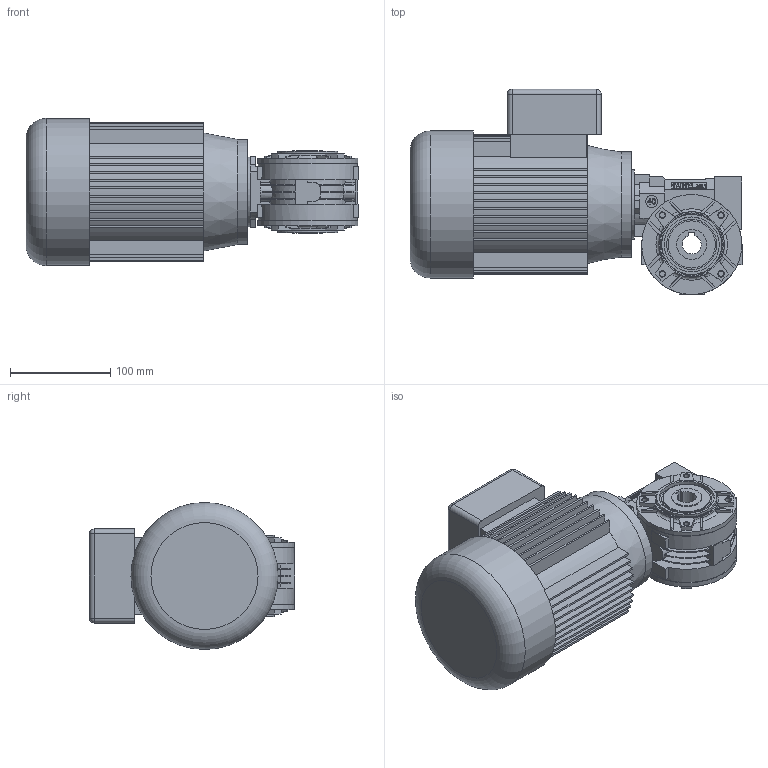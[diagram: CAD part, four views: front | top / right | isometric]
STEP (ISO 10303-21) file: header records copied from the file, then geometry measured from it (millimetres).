
FILE_DESCRIPTION( ( 'Unknown' ), '1' );
FILE_NAME( 'E:/services/configuratordownloads/customers/VARVEL/RS/download/71296CFAF1E2DC936AA6CF10127146/STEP/71296CFAF1E2DC936AA6CF10127146.3d.stp', 'Unknown', ( 'Unknown' ), ( 'Unknown' ), 'PSStep 10.1', 'Unknown', ' ' );
FILE_SCHEMA( ( 'AUTOMOTIVE_DESIGN { 1 0 10303 214 1 1 1 1 }' ) );
Length unit declared in the file: millimetre
Products named in the file (1): 571101
Bounding box: 331.75 x 205 x 147 mm (x, y, z)
Volume: 3852440.1 mm3; surface area: 345954.8 mm2
Topology: 1 solids, 4 shells, 849 faces, 2223 edges, 1464 vertices
Faces by surface type: plane 621, cylinder 155, torus 45, cone 24, sphere 4
Full cylindrical faces by diameter (mm): 5 x8, 6.5 x8, 7 x4, 12 x1, 14 x1, 17 x1, 18 x1, 20 x1, 30 x2, 36 x1, 42.1 x1, 42.2 x1, 47.1 x3, 50 x2, 52 x1, 55 x4, 55.4 x2, 59 x1, 60 x2, 68 x1, 69 x1, 70 x4, 100 x2, 105 x1, 147 x1
Entity records: 32872 total; most frequent: CARTESIAN_POINT 5520, ORIENTED_EDGE 4222, DIRECTION 4110, EDGE_CURVE 2111, LINE 1514, VECTOR 1514, VERTEX_POINT 1432, AXIS2_PLACEMENT_3D 1298
